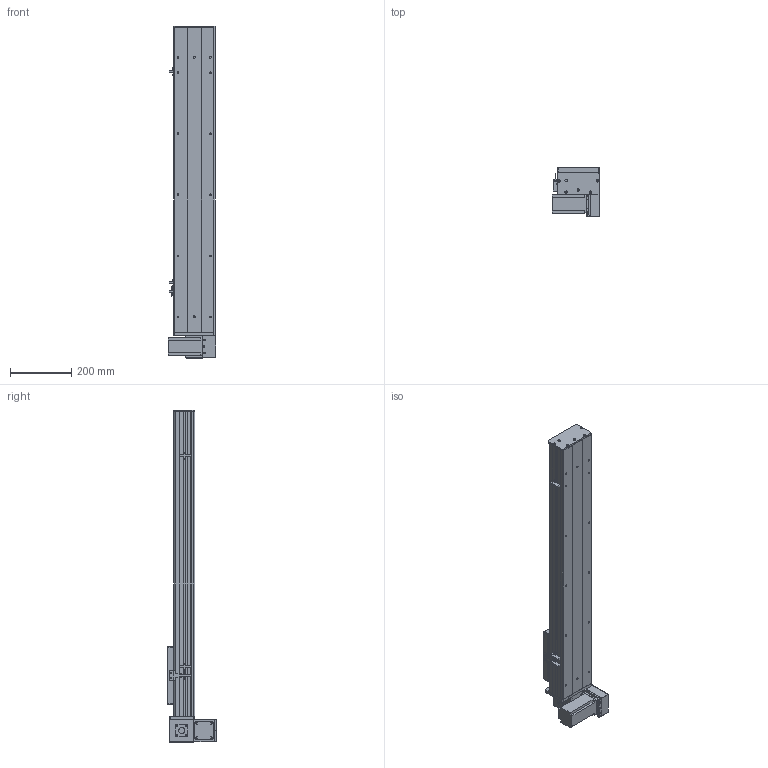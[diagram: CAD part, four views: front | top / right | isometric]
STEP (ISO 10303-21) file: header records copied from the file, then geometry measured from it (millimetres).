
FILE_DESCRIPTION (( 'STEP AP203' ), '1' );
FILE_NAME ('Y135CB-D90-S700-BM-P400W.STEP', '2020-02-18T09:25:17', ( '微软用户' ), ( '微软中国' ), 'SwSTEP 2.0', 'SolidWorks 2017', '' );
FILE_SCHEMA (( 'CONFIG_CONTROL_DESIGN' ));
Length unit declared in the file: millimetre
Products named in the file (18): Y100-135俋离換覜ん--; 35CB---喘謫眊楊擘啣; Y135C-陔俋离換覜結え-; 0B-埴倛裔啣; 5C--俋欶; 0B-源倛裔啣; C-雄赽釱--; 0B-萇儂楊擘啣; Y10B--々湍喘謫眊--666; san松下电机400不带刹车----; 00B-俋欶BM--; 5CB --掛极耜裔啣-; Y10B-耜蚾蟀諉啣----; C-詩湍揤踡え-陔; Y135CB-耜裔; Y135CB-D90-S700-BM-P400W; 135CB--詩湍-CE; 135CB---遴掛极.-
Assembly tree (21 placements, depth 2):
  Y135CB-D90-S700-BM-P400W
    Y135CB-耜裔
    135CB---遴掛极.-
    35CB---喘謫眊楊擘啣
    0B-埴倛裔啣
    0B-源倛裔啣
    0B-萇儂楊擘啣
    san松下电机400不带刹车----
    5CB --掛极耜裔啣-  x2
    C-詩湍揤踡え-陔  x2
    135CB--詩湍-CE
    Y100-135俋离換覜ん--  x3
    Y135C-陔俋离換覜結え-
    5C--俋欶
    C-雄赽釱--
    Y10B--々湍喘謫眊--666
    00B-俋欶BM--
    Y10B-耜蚾蟀諉啣----
Bounding box: 157 x 163.3 x 1088 mm (x, y, z)
Volume: 3607265.4 mm3; surface area: 1403515.1 mm2
Topology: 21 solids, 21 shells, 941 faces, 2509 edges, 1662 vertices
Faces by surface type: cylinder 469, plane 456, cone 16
Entity records: 29147 total; most frequent: DIRECTION 4841, CARTESIAN_POINT 4768, ORIENTED_EDGE 4494, EDGE_CURVE 2247, AXIS2_PLACEMENT_3D 1763, VERTEX_POINT 1490, VECTOR 1315, LINE 1315
